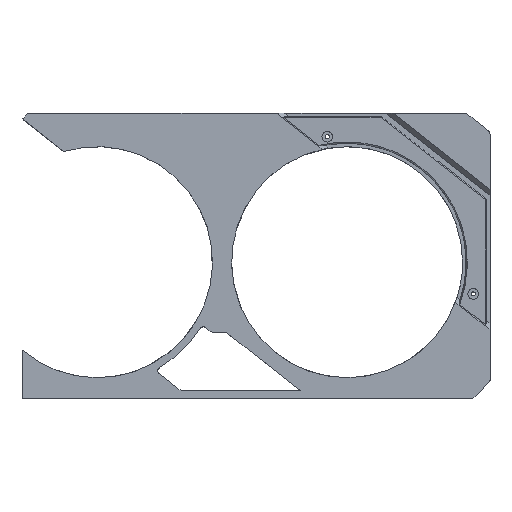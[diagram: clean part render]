
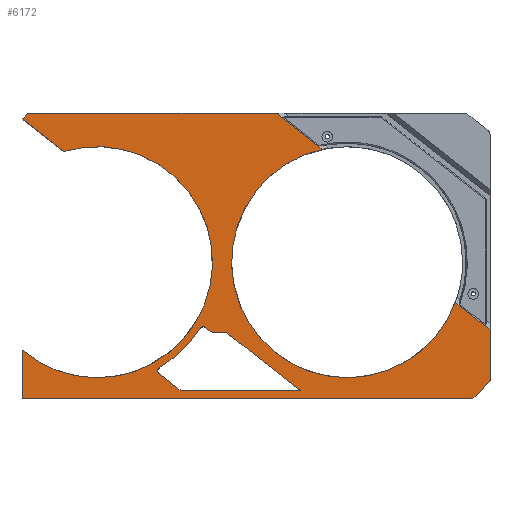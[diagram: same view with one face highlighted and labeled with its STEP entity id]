
A CAD part, top view. The second image highlights one B-rep face of the part: STEP entity #6172.
In plain terms, the highlighted planar face has unit normal (0, 0, 1).
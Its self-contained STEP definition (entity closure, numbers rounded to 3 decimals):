
#155=CARTESIAN_POINT('',(0.,0.,3.8));
#156=DIRECTION('',(0.,0.,-1.));
#157=DIRECTION('',(-0.289,0.957,0.));
#158=AXIS2_PLACEMENT_3D('',#155,#156,#157);
#285=DIRECTION('',(0.786,-0.618,0.));
#286=VECTOR('',#285,39.365);
#287=CARTESIAN_POINT('',(54.51,-29.662,3.8));
#288=LINE('',#287,#286);
#292=CARTESIAN_POINT('',(53.521,-30.92,3.8));
#293=DIRECTION('',(0.,0.,-1.));
#294=DIRECTION('',(0.,1.,0.));
#295=AXIS2_PLACEMENT_3D('',#292,#293,#294);
#300=DIRECTION('',(1.,0.,0.));
#301=VECTOR('',#300,5.071);
#302=CARTESIAN_POINT('',(48.45,-29.32,3.8));
#303=LINE('',#302,#301);
#307=CARTESIAN_POINT('',(48.45,-27.72,3.8));
#308=DIRECTION('',(0.,0.,1.));
#309=DIRECTION('',(-0.618,-0.786,0.));
#310=AXIS2_PLACEMENT_3D('',#307,#308,#309);
#315=DIRECTION('',(0.786,-0.618,0.));
#316=VECTOR('',#315,2.461);
#317=CARTESIAN_POINT('',(45.526,-27.455,3.8));
#318=LINE('',#317,#316);
#322=CARTESIAN_POINT('',(44.599,-28.634,3.8));
#323=DIRECTION('',(0.,0.,-1.));
#324=DIRECTION('',(-0.841,0.54,0.));
#325=AXIS2_PLACEMENT_3D('',#322,#323,#324);
#330=CARTESIAN_POINT('',(0.,0.,3.8));
#331=DIRECTION('',(0.,0.,1.));
#332=DIRECTION('',(0.51,-0.86,0.));
#333=AXIS2_PLACEMENT_3D('',#330,#331,#332);
#338=CARTESIAN_POINT('',(27.03,-45.589,3.8));
#339=DIRECTION('',(0.,0.,-1.));
#340=DIRECTION('',(-0.618,-0.786,0.));
#341=AXIS2_PLACEMENT_3D('',#338,#339,#340);
#346=DIRECTION('',(-0.786,0.618,0.));
#347=VECTOR('',#346,11.697);
#348=CARTESIAN_POINT('',(35.296,-54.,3.8));
#349=LINE('',#348,#347);
#353=DIRECTION('',(-1.,0.,0.));
#354=VECTOR('',#353,50.154);
#355=CARTESIAN_POINT('',(85.45,-54.,3.8));
#356=LINE('',#355,#354);
#360=DIRECTION('',(0.,1.,0.));
#361=VECTOR('',#360,20.52);
#362=CARTESIAN_POINT('',(-31.498,-57.4,3.8));
#363=LINE('',#362,#361);
#367=DIRECTION('',(-0.786,0.618,0.));
#368=VECTOR('',#367,22.262);
#369=CARTESIAN_POINT('',(-14.001,46.435,3.8));
#370=LINE('',#369,#368);
#374=CARTESIAN_POINT('',(-31.502,61.2,3.8));
#375=DIRECTION('',(0.,0.,-1.));
#376=DIRECTION('',(0.707,-0.707,0.));
#377=AXIS2_PLACEMENT_3D('',#374,#375,#376);
#382=DIRECTION('',(-0.707,-0.707,0.));
#383=VECTOR('',#382,2.566);
#384=CARTESIAN_POINT('',(-28.98,62.307,3.8));
#385=LINE('',#384,#383);
#389=CARTESIAN_POINT('',(-28.273,61.6,3.8));
#390=DIRECTION('',(0.,0.,1.));
#391=DIRECTION('',(0.,1.,0.));
#392=AXIS2_PLACEMENT_3D('',#389,#390,#391);
#397=DIRECTION('',(-1.,0.,0.));
#398=VECTOR('',#397,103.505);
#399=CARTESIAN_POINT('',(75.232,62.6,3.8));
#400=LINE('',#399,#398);
#404=DIRECTION('',(0.786,-0.618,0.));
#405=VECTOR('',#404,3.235);
#406=CARTESIAN_POINT('',(75.232,62.6,3.8));
#407=LINE('',#406,#405);
#411=DIRECTION('',(0.786,-0.618,0.));
#412=VECTOR('',#411,18.849);
#413=CARTESIAN_POINT('',(77.775,60.6,3.8));
#414=LINE('',#413,#412);
#418=DIRECTION('',(0.786,-0.618,0.));
#419=VECTOR('',#418,2.549);
#420=CARTESIAN_POINT('',(92.589,48.947,3.8));
#421=LINE('',#420,#419);
#425=DIRECTION('',(0.786,-0.618,0.));
#426=VECTOR('',#425,2.104);
#427=CARTESIAN_POINT('',(150.453,-16.921,3.8));
#428=LINE('',#427,#426);
#432=DIRECTION('',(0.786,-0.618,0.));
#433=VECTOR('',#432,13.861);
#434=CARTESIAN_POINT('',(152.106,-18.221,3.8));
#435=LINE('',#434,#433);
#439=DIRECTION('',(0.786,-0.618,0.));
#440=VECTOR('',#439,2.545);
#441=CARTESIAN_POINT('',(163.,-26.791,3.8));
#442=LINE('',#441,#440);
#446=DIRECTION('',(0.,1.,0.));
#447=VECTOR('',#446,21.181);
#448=CARTESIAN_POINT('',(165.,-49.546,3.8));
#449=LINE('',#448,#447);
#453=CARTESIAN_POINT('',(164.,-49.546,3.8));
#454=DIRECTION('',(0.,0.,1.));
#455=DIRECTION('',(0.707,-0.707,0.));
#456=AXIS2_PLACEMENT_3D('',#453,#454,#455);
#461=DIRECTION('',(0.707,0.707,0.));
#462=VECTOR('',#461,9.694);
#463=CARTESIAN_POINT('',(157.853,-57.107,3.8));
#464=LINE('',#463,#462);
#468=CARTESIAN_POINT('',(157.146,-56.4,3.8));
#469=DIRECTION('',(0.,0.,1.));
#470=DIRECTION('',(0.,-1.,0.));
#471=AXIS2_PLACEMENT_3D('',#468,#469,#470);
#476=DIRECTION('',(1.,0.,0.));
#477=VECTOR('',#476,188.643);
#478=CARTESIAN_POINT('',(-31.498,-57.4,3.8));
#479=LINE('',#478,#477);
#504=CARTESIAN_POINT('',(150.453,-16.921,3.8));
#1520=CARTESIAN_POINT('',(77.775,60.6,3.799));
#1568=CARTESIAN_POINT('',(94.593,47.37,3.8));
#3118=CARTESIAN_POINT('',(105.,0.,3.8));
#3119=DIRECTION('',(0.,0.,-1.));
#3120=DIRECTION('',(0.937,-0.349,0.));
#3121=AXIS2_PLACEMENT_3D('',#3118,#3119,#3120);
#5305=CARTESIAN_POINT('',(157.146,-57.4,3.8));
#5306=CARTESIAN_POINT('',(157.853,-57.107,3.8));
#5307=VERTEX_POINT('',#5305);
#5308=VERTEX_POINT('',#5306);
#5309=CARTESIAN_POINT('',(164.707,-50.253,3.8));
#5310=CARTESIAN_POINT('',(165.,-49.546,3.8));
#5311=VERTEX_POINT('',#5309);
#5312=VERTEX_POINT('',#5310);
#5313=CARTESIAN_POINT('',(-28.273,62.6,3.8));
#5314=CARTESIAN_POINT('',(-28.98,62.307,3.8));
#5315=VERTEX_POINT('',#5313);
#5316=VERTEX_POINT('',#5314);
#5317=CARTESIAN_POINT('',(-30.795,60.493,3.8));
#5318=VERTEX_POINT('',#5317);
#5319=CARTESIAN_POINT('',(43.337,-27.824,3.8));
#5320=CARTESIAN_POINT('',(45.526,-27.455,3.8));
#5321=VERTEX_POINT('',#5319);
#5322=VERTEX_POINT('',#5320);
#5323=CARTESIAN_POINT('',(47.461,-28.977,3.8));
#5324=VERTEX_POINT('',#5323);
#5325=CARTESIAN_POINT('',(48.45,-29.32,3.8));
#5326=VERTEX_POINT('',#5325);
#5327=CARTESIAN_POINT('',(53.521,-29.32,3.8));
#5328=VERTEX_POINT('',#5327);
#5329=CARTESIAN_POINT('',(54.51,-29.662,3.8));
#5330=VERTEX_POINT('',#5329);
#5331=CARTESIAN_POINT('',(85.45,-54.,3.8));
#5332=VERTEX_POINT('',#5331);
#5741=VERTEX_POINT('',#1568);
#5742=VERTEX_POINT('',#504);
#5746=CARTESIAN_POINT('',(165.,-28.364,3.8));
#5748=VERTEX_POINT('',#5746);
#5803=CARTESIAN_POINT('',(-14.001,46.435,3.8));
#5805=VERTEX_POINT('',#5803);
#5807=CARTESIAN_POINT('',(-31.498,60.2,3.8));
#5808=VERTEX_POINT('',#5807);
#5857=CARTESIAN_POINT('',(-31.498,-57.4,3.8));
#5858=VERTEX_POINT('',#5857);
#5859=CARTESIAN_POINT('',(-31.498,-36.88,3.8));
#5861=VERTEX_POINT('',#5859);
#5906=CARTESIAN_POINT('',(92.589,48.947,3.8));
#5907=VERTEX_POINT('',#5906);
#5908=CARTESIAN_POINT('',(152.106,-18.221,3.8));
#5909=VERTEX_POINT('',#5908);
#5912=VERTEX_POINT('',#1520);
#5921=CARTESIAN_POINT('',(35.296,-54.,3.8));
#5922=VERTEX_POINT('',#5921);
#5923=CARTESIAN_POINT('',(26.103,-46.768,3.8));
#5924=VERTEX_POINT('',#5923);
#5925=CARTESIAN_POINT('',(26.265,-44.299,3.8));
#5926=VERTEX_POINT('',#5925);
#5931=CARTESIAN_POINT('',(75.232,62.6,3.8));
#5932=VERTEX_POINT('',#5931);
#5933=CARTESIAN_POINT('',(163.,-26.791,3.8));
#5934=VERTEX_POINT('',#5933);
#6109=CARTESIAN_POINT('',(0.,0.,3.8));
#6110=DIRECTION('',(0.,0.,1.));
#6111=DIRECTION('',(1.,0.,0.));
#6112=AXIS2_PLACEMENT_3D('',#6109,#6110,#6111);
#6113=PLANE('',#6112);
#6115=ORIENTED_EDGE('',*,*,#6114,.T.);
#6116=ORIENTED_EDGE('',*,*,#6051,.F.);
#6118=ORIENTED_EDGE('',*,*,#6117,.T.);
#6120=ORIENTED_EDGE('',*,*,#6119,.F.);
#6122=ORIENTED_EDGE('',*,*,#6121,.F.);
#6124=ORIENTED_EDGE('',*,*,#6123,.F.);
#6126=ORIENTED_EDGE('',*,*,#6125,.F.);
#6128=ORIENTED_EDGE('',*,*,#6127,.T.);
#6130=ORIENTED_EDGE('',*,*,#6129,.T.);
#6132=ORIENTED_EDGE('',*,*,#6131,.T.);
#6134=ORIENTED_EDGE('',*,*,#6133,.F.);
#6136=ORIENTED_EDGE('',*,*,#6135,.T.);
#6138=ORIENTED_EDGE('',*,*,#6137,.T.);
#6140=ORIENTED_EDGE('',*,*,#6139,.T.);
#6142=ORIENTED_EDGE('',*,*,#6141,.F.);
#6144=ORIENTED_EDGE('',*,*,#6143,.F.);
#6145=ORIENTED_EDGE('',*,*,#5944,.F.);
#6146=ORIENTED_EDGE('',*,*,#5960,.F.);
#6147=ORIENTED_EDGE('',*,*,#5977,.F.);
#6148=EDGE_LOOP('',(#6115,#6116,#6118,#6120,#6122,#6124,#6126,#6128,#6130,#6132,
#6134,#6136,#6138,#6140,#6142,#6144,#6145,#6146,#6147));
#6149=FACE_OUTER_BOUND('',#6148,.F.);
#6151=ORIENTED_EDGE('',*,*,#6150,.F.);
#6153=ORIENTED_EDGE('',*,*,#6152,.F.);
#6155=ORIENTED_EDGE('',*,*,#6154,.F.);
#6157=ORIENTED_EDGE('',*,*,#6156,.F.);
#6159=ORIENTED_EDGE('',*,*,#6158,.F.);
#6161=ORIENTED_EDGE('',*,*,#6160,.F.);
#6163=ORIENTED_EDGE('',*,*,#6162,.F.);
#6165=ORIENTED_EDGE('',*,*,#6164,.F.);
#6167=ORIENTED_EDGE('',*,*,#6166,.F.);
#6169=ORIENTED_EDGE('',*,*,#6168,.F.);
#6170=EDGE_LOOP('',(#6151,#6153,#6155,#6157,#6159,#6161,#6163,#6165,#6167,
#6169));
#6171=FACE_BOUND('',#6170,.F.);
#159=CIRCLE('',#158,48.5);
#296=CIRCLE('',#295,1.6);
#311=CIRCLE('',#310,1.6);
#326=CIRCLE('',#325,1.5);
#334=CIRCLE('',#333,51.5);
#342=CIRCLE('',#341,1.5);
#378=CIRCLE('',#377,1.);
#393=CIRCLE('',#392,1.);
#457=CIRCLE('',#456,1.);
#472=CIRCLE('',#471,1.);
#3122=CIRCLE('',#3121,48.5);
#5944=EDGE_CURVE('',#5308,#5311,#464,.T.);
#5960=EDGE_CURVE('',#5307,#5308,#472,.T.);
#5977=EDGE_CURVE('',#5858,#5307,#479,.T.);
#6051=EDGE_CURVE('',#5805,#5861,#159,.T.);
#6114=EDGE_CURVE('',#5858,#5861,#363,.T.);
#6117=EDGE_CURVE('',#5805,#5808,#370,.T.);
#6119=EDGE_CURVE('',#5318,#5808,#378,.T.);
#6121=EDGE_CURVE('',#5316,#5318,#385,.T.);
#6123=EDGE_CURVE('',#5315,#5316,#393,.T.);
#6125=EDGE_CURVE('',#5932,#5315,#400,.T.);
#6127=EDGE_CURVE('',#5932,#5912,#407,.T.);
#6129=EDGE_CURVE('',#5912,#5907,#414,.T.);
#6131=EDGE_CURVE('',#5907,#5741,#421,.T.);
#6133=EDGE_CURVE('',#5742,#5741,#3122,.T.);
#6135=EDGE_CURVE('',#5742,#5909,#428,.T.);
#6137=EDGE_CURVE('',#5909,#5934,#435,.T.);
#6139=EDGE_CURVE('',#5934,#5748,#442,.T.);
#6141=EDGE_CURVE('',#5312,#5748,#449,.T.);
#6143=EDGE_CURVE('',#5311,#5312,#457,.T.);
#6150=EDGE_CURVE('',#5330,#5332,#288,.T.);
#6152=EDGE_CURVE('',#5328,#5330,#296,.T.);
#6154=EDGE_CURVE('',#5326,#5328,#303,.T.);
#6156=EDGE_CURVE('',#5324,#5326,#311,.T.);
#6158=EDGE_CURVE('',#5322,#5324,#318,.T.);
#6160=EDGE_CURVE('',#5321,#5322,#326,.T.);
#6162=EDGE_CURVE('',#5926,#5321,#334,.T.);
#6164=EDGE_CURVE('',#5924,#5926,#342,.T.);
#6166=EDGE_CURVE('',#5922,#5924,#349,.T.);
#6168=EDGE_CURVE('',#5332,#5922,#356,.T.);
#6172=ADVANCED_FACE('',(#6149,#6171),#6113,.T.);
